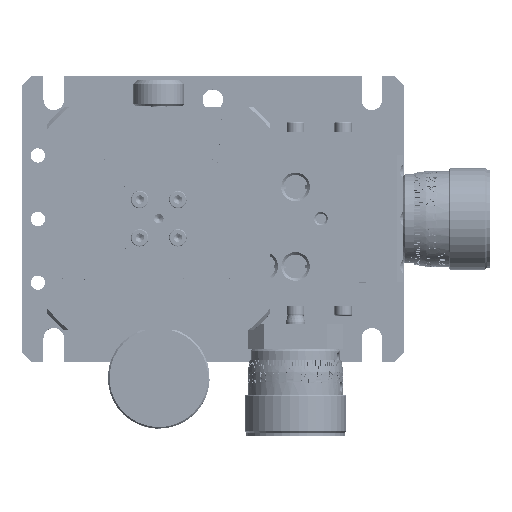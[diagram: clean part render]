
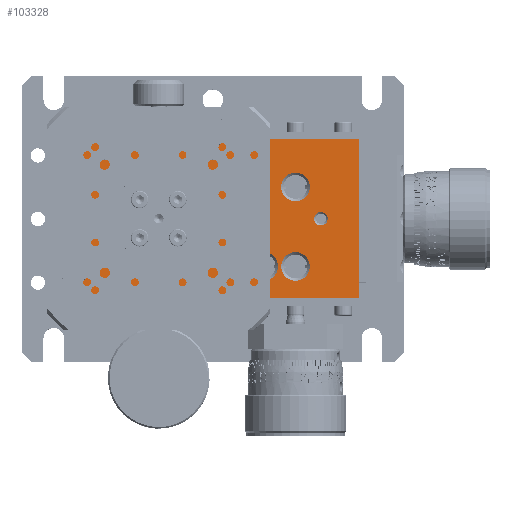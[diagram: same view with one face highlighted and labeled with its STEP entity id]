
A CAD part, top view. The second image highlights one B-rep face of the part: STEP entity #103328.
In plain terms, the highlighted planar face has unit normal (0, 0, 1).
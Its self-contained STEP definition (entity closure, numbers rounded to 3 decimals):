
#7787=LINE($,#530846,#14587);
#7801=LINE($,#530880,#14601);
#8035=LINE($,#531618,#14835);
#8040=LINE($,#531642,#14840);
#14587=VECTOR($,#127050,87.8);
#14601=VECTOR($,#127078,50.);
#14835=VECTOR($,#127780,87.8);
#14840=VECTOR($,#127805,50.);
#22774=PLANE($,#109771);
#24753=FACE_BOUND($,#36933,.T.);
#24754=FACE_BOUND($,#36934,.T.);
#24755=FACE_BOUND($,#36935,.T.);
#24756=FACE_BOUND($,#36936,.T.);
#24757=FACE_BOUND($,#36937,.T.);
#24758=FACE_BOUND($,#36938,.T.);
#36933=EDGE_LOOP($,(#92580));
#36934=EDGE_LOOP($,(#92581));
#36935=EDGE_LOOP($,(#92582));
#36936=EDGE_LOOP($,(#92583));
#36937=EDGE_LOOP($,(#92584,#92585,#92586,#92587));
#36938=EDGE_LOOP($,(#92588));
#41162=CIRCLE($,#109768,2.121);
#41164=CIRCLE($,#109772,16.);
#41165=CIRCLE($,#109773,4.5);
#41166=CIRCLE($,#109774,4.5);
#41167=CIRCLE($,#109775,4.5);
#50607=VERTEX_POINT($,#530843);
#50608=VERTEX_POINT($,#530845);
#50621=VERTEX_POINT($,#530879);
#50867=VERTEX_POINT($,#531617);
#50871=VERTEX_POINT($,#531628);
#50873=VERTEX_POINT($,#531634);
#50874=VERTEX_POINT($,#531636);
#50875=VERTEX_POINT($,#531638);
#50876=VERTEX_POINT($,#531640);
#64901=EDGE_CURVE($,#50608,#50607,#7787,.T.);
#64917=EDGE_CURVE($,#50621,#50608,#7801,.T.);
#65267=EDGE_CURVE($,#50867,#50621,#8035,.T.);
#65273=EDGE_CURVE($,#50871,#50871,#41162,.T.);
#65275=EDGE_CURVE($,#50873,#50873,#41164,.T.);
#65276=EDGE_CURVE($,#50874,#50874,#41165,.T.);
#65277=EDGE_CURVE($,#50875,#50875,#41166,.T.);
#65278=EDGE_CURVE($,#50876,#50876,#41167,.T.);
#65279=EDGE_CURVE($,#50867,#50607,#8040,.T.);
#92580=ORIENTED_EDGE($,*,*,#65275,.T.);
#92581=ORIENTED_EDGE($,*,*,#65276,.T.);
#92582=ORIENTED_EDGE($,*,*,#65277,.T.);
#92583=ORIENTED_EDGE($,*,*,#65278,.T.);
#92584=ORIENTED_EDGE($,*,*,#65279,.F.);
#92585=ORIENTED_EDGE($,*,*,#65267,.T.);
#92586=ORIENTED_EDGE($,*,*,#64917,.T.);
#92587=ORIENTED_EDGE($,*,*,#64901,.T.);
#92588=ORIENTED_EDGE($,*,*,#65273,.F.);
#103328=ADVANCED_FACE($,(#24753,#24754,#24755,#24756,#24757,#24758),#22774,
 .T.);
#109768=AXIS2_PLACEMENT_3D($,#531629,#127789,#127790);
#109771=AXIS2_PLACEMENT_3D($,#531633,#127795,#127796);
#109772=AXIS2_PLACEMENT_3D($,#531635,#127797,#127798);
#109773=AXIS2_PLACEMENT_3D($,#531637,#127799,#127800);
#109774=AXIS2_PLACEMENT_3D($,#531639,#127801,#127802);
#109775=AXIS2_PLACEMENT_3D($,#531641,#127803,#127804);
#127050=DIRECTION($,(-1.,0.,0.));
#127078=DIRECTION($,(0.,1.,0.));
#127780=DIRECTION($,(1.,0.,0.));
#127789=DIRECTION('center_axis',(0.,0.,
1.));
#127790=DIRECTION('ref_axis',(-1.,0.,0.));
#127795=DIRECTION('center_axis',(0.,0.,
1.));
#127796=DIRECTION('ref_axis',(1.,0.,0.));
#127797=DIRECTION('center_axis',(0.,0.,
-1.));
#127798=DIRECTION('ref_axis',(1.,0.,0.));
#127799=DIRECTION('center_axis',(0.,0.,
-1.));
#127800=DIRECTION('ref_axis',(1.,0.,0.));
#127801=DIRECTION('center_axis',(0.,0.,
-1.));
#127802=DIRECTION('ref_axis',(1.,0.,0.));
#127803=DIRECTION('center_axis',(0.,0.,
-1.));
#127804=DIRECTION('ref_axis',(1.,0.,0.));
#127805=DIRECTION($,(0.,1.,0.));
#530843=CARTESIAN_POINT('',(-41.8,25.,66.));
#530845=CARTESIAN_POINT('',(46.,25.,66.));
#530846=CARTESIAN_POINT($,(-42.,25.,66.));
#530879=CARTESIAN_POINT('',(46.,-25.,66.));
#530880=CARTESIAN_POINT($,(46.,25.,66.));
#531617=CARTESIAN_POINT('',(-41.8,-25.,66.));
#531618=CARTESIAN_POINT($,(46.,-25.,66.));
#531628=CARTESIAN_POINT('',(36.121,0.,66.));
#531629=CARTESIAN_POINT('Origin',(34.,0.,
66.));
#531633=CARTESIAN_POINT('Origin',(2.,0.,
66.));
#531634=CARTESIAN_POINT('',(-1.,0.,66.));
#531635=CARTESIAN_POINT('Origin',(-17.,0.,
66.));
#531636=CARTESIAN_POINT('',(30.5,10.,66.));
#531637=CARTESIAN_POINT('Origin',(26.,10.,66.));
#531638=CARTESIAN_POINT('',(20.5,-15.,66.));
#531639=CARTESIAN_POINT('Origin',(16.,-15.,66.));
#531640=CARTESIAN_POINT('',(30.5,-15.,66.));
#531641=CARTESIAN_POINT('Origin',(26.,-15.,66.));
#531642=CARTESIAN_POINT($,(-41.8,12.5,66.));
